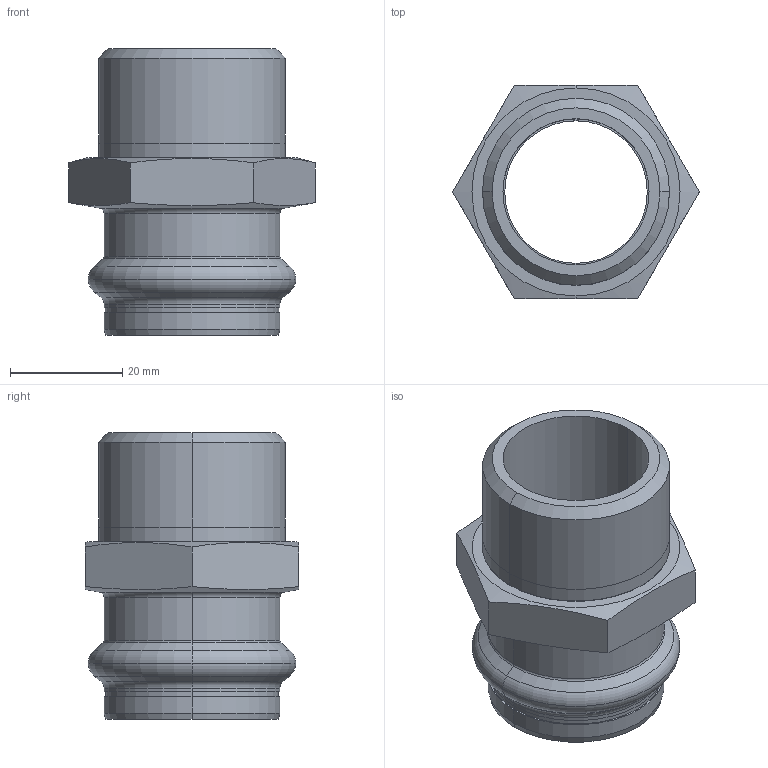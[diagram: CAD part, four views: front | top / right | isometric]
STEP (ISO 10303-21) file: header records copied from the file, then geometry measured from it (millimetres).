
FILE_DESCRIPTION(('CoCreate Modeling STEP Export'),'2;1');
FILE_NAME('8243GVW281.stp','2013-03-05T10:37:20',(''),(''),'CoCreate Modeling STEP processor for AP214 (Solid Model)','CoCreate Modeling 17.00A 17-Jun-2010 (C) Parametric Technology GmbH','');
FILE_SCHEMA(('AUTOMOTIVE_DESIGN { 1 0 10303 214 1 1 1 1 }'));
Length unit declared in the file: millimetre
Products named in the file (1): 8243GVW281
Bounding box: 43.88 x 38 x 51 mm (x, y, z)
Volume: 17197.1 mm3; surface area: 11467.1 mm2
Topology: 1 solids, 1 shells, 61 faces, 137 edges, 83 vertices
Faces by surface type: cylinder 22, cone 16, plane 13, torus 10
Entity records: 2134 total; most frequent: CARTESIAN_POINT 914, ORIENTED_EDGE 274, DIRECTION 206, EDGE_CURVE 137, VERTEX_POINT 83, AXIS2_PLACEMENT_3D 81, EDGE_LOOP 68, FACE_OUTER_BOUND 61
